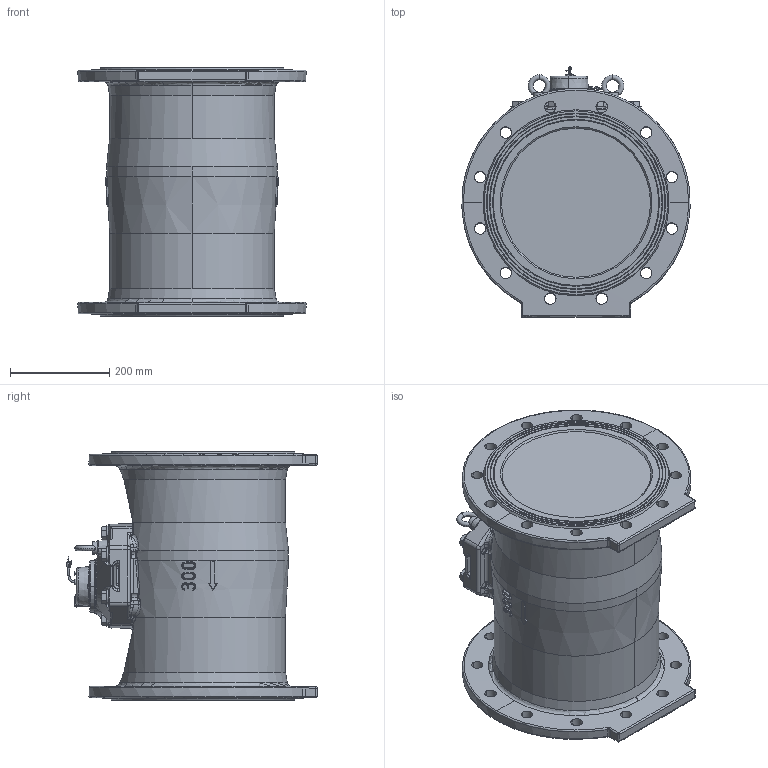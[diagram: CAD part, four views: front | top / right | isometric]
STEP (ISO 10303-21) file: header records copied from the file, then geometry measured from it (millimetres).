
FILE_DESCRIPTION (( 'STEP AP214' ), '1' );
FILE_NAME ('MWN130-300-NC.STEP', '2025-08-01T11:12:54', ( '' ), ( '' ), 'SwSTEP 2.0', 'SolidWorks 2019', '' );
FILE_SCHEMA (( 'AUTOMOTIVE_DESIGN' ));
Length unit declared in the file: millimetre
Products named in the file (1): MWN130-300-NC
Bounding box: 459.64 x 504.52 x 500 mm (x, y, z)
Volume: 605479.4 mm3; surface area: 1472840.1 mm2
Topology: 53 solids, 56 shells, 1972 faces, 5015 edges, 3159 vertices
Faces by surface type: cylinder 611, plane 583, bspline 320, cone 308, torus 115, sphere 35
Entity records: 126656 total; most frequent: CARTESIAN_POINT 60485, ORIENTED_EDGE 9844, DIRECTION 8362, EDGE_CURVE 4922, AXIS2_PLACEMENT_3D 3296, VERTEX_POINT 3152, EDGE_LOOP 2198, ADVANCED_FACE 1976
